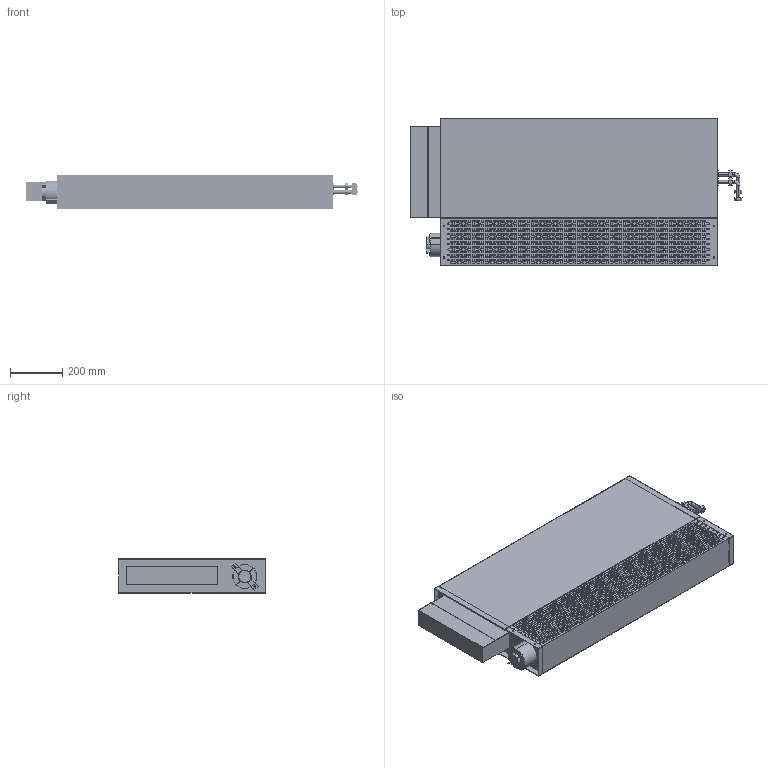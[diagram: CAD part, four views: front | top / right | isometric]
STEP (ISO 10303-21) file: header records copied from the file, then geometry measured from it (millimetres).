
FILE_DESCRIPTION (( 'STEP AP214' ), '1' );
FILE_NAME ('PFWSLA-04-2pipe_v2.STEP', '2024-10-22T13:53:05', ( '' ), ( '' ), 'SwSTEP 2.0', 'SolidWorks 2023', '' );
FILE_SCHEMA (( 'AUTOMOTIVE_DESIGN' ));
Length unit declared in the file: inch
Products named in the file (1): PFWSLA-04-2pipe_v2
Bounding box: 1270.08 x 561.98 x 130.18 mm (x, y, z)
Volume: 20703100.7 mm3; surface area: 4815211 mm2
Topology: 24 solids, 24 shells, 5398 faces, 15012 edges, 9992 vertices
Faces by surface type: plane 3232, cylinder 2162, torus 4
Entity records: 176456 total; most frequent: CARTESIAN_POINT 30403, DIRECTION 30150, ORIENTED_EDGE 30024, EDGE_CURVE 15012, VECTOR 10672, LINE 10672, VERTEX_POINT 9992, AXIS2_PLACEMENT_3D 9739
